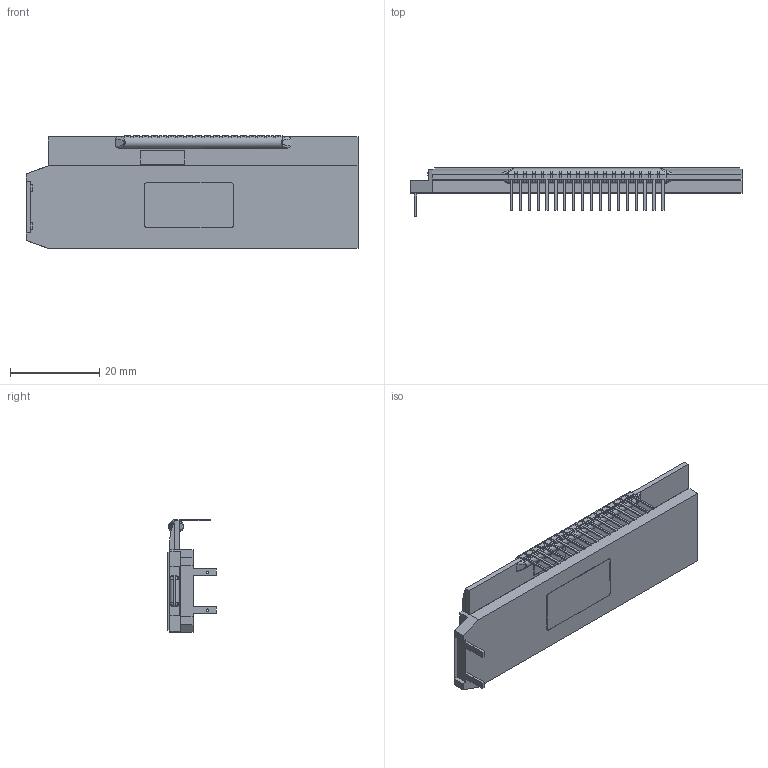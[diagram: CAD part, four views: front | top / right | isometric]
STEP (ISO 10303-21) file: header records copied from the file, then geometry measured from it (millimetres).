
FILE_DESCRIPTION (( 'STEP AP203' ), '1' );
FILE_NAME ('NHD-C0220BA-FSW-FTW-3V3_Rev1B.STEP', '2025-06-30T18:30:41', ( '' ), ( '' ), 'SwSTEP 2.0', 'SolidWorks 2019', '' );
FILE_SCHEMA (( 'CONFIG_CONTROL_DESIGN' ));
Length unit declared in the file: millimetre
Products named in the file (1): NHD-C0220BA-FSW-FTW-3V3_Rev1B
Bounding box: 74.5 x 10.85 x 25.3 mm (x, y, z)
Volume: 8455 mm3; surface area: 9842.9 mm2
Topology: 25 solids, 25 shells, 588 faces, 1533 edges, 1013 vertices
Faces by surface type: plane 437, cylinder 132, bspline 17, torus 2
Entity records: 19285 total; most frequent: CARTESIAN_POINT 4676, ORIENTED_EDGE 3052, DIRECTION 2926, EDGE_CURVE 1526, LINE 1180, VECTOR 1180, VERTEX_POINT 1013, AXIS2_PLACEMENT_3D 873
